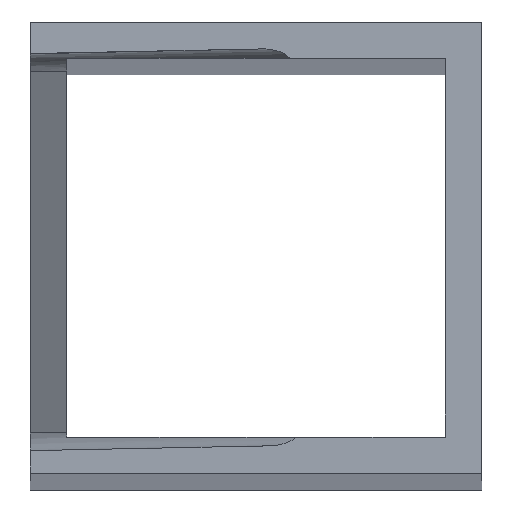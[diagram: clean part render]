
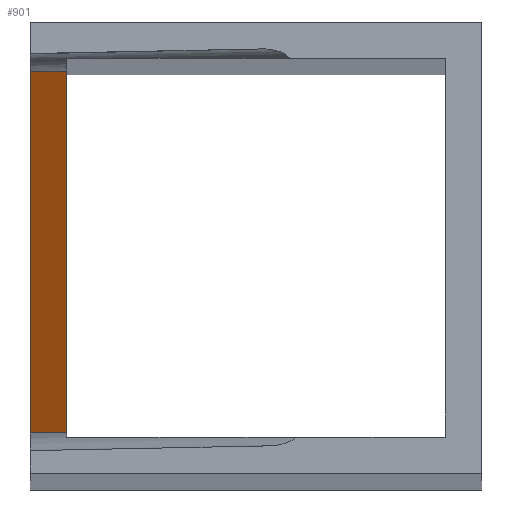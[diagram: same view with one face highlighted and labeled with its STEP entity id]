
A CAD part, top view. The second image highlights one B-rep face of the part: STEP entity #901.
In plain terms, the highlighted planar face has unit normal (-0.573, -0.011, 0.819).
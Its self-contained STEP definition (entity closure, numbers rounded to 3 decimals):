
#44 = PLANE('',#45);
#45 = AXIS2_PLACEMENT_3D('',#46,#47,#48);
#46 = CARTESIAN_POINT('',(-25.,25.,0.));
#47 = DIRECTION('',(1.,0.,-0.));
#48 = DIRECTION('',(0.,-1.,0.));
#242 = VERTEX_POINT('',#243);
#243 = CARTESIAN_POINT('',(-25.,19.504,1049.543));
#258 = CYLINDRICAL_SURFACE('',#259,2.);
#259 = AXIS2_PLACEMENT_3D('',#260,#261,#262);
#260 = CARTESIAN_POINT('',(-2738.935,-34.775,
    -847.77));
#261 = DIRECTION('',(0.819,0.016,0.573));
#262 = DIRECTION('',(0.02,-1.,
    0.));
#275 = EDGE_CURVE('',#242,#276,#278,.T.);
#276 = VERTEX_POINT('',#277);
#277 = CARTESIAN_POINT('',(-25.,-20.504,1048.983));
#278 = SURFACE_CURVE('',#279,(#283,#289),.PCURVE_S1.);
#279 = LINE('',#280,#281);
#280 = CARTESIAN_POINT('',(-25.,-45.49,1048.633));
#281 = VECTOR('',#282,1.);
#282 = DIRECTION('',(0.,-1.,-0.014));
#283 = PCURVE('',#44,#284);
#284 = DEFINITIONAL_REPRESENTATION('',(#285),#288);
#285 = B_SPLINE_CURVE_WITH_KNOTS('',1,(#286,#287),.UNSPECIFIED.,.F.,.F.,
  (2,2),(-65.001,-24.989),.PIECEWISE_BEZIER_KNOTS.);
#286 = CARTESIAN_POINT('',(5.496,-1049.543));
#287 = CARTESIAN_POINT('',(45.504,-1048.983));
#288 = ( GEOMETRIC_REPRESENTATION_CONTEXT(2) 
PARAMETRIC_REPRESENTATION_CONTEXT() REPRESENTATION_CONTEXT('2D SPACE',''
  ) );
#289 = PCURVE('',#290,#295);
#290 = PLANE('',#291);
#291 = AXIS2_PLACEMENT_3D('',#292,#293,#294);
#292 = CARTESIAN_POINT('',(-2736.988,-74.744,
    -849.409));
#293 = DIRECTION('',(-0.573,-0.011,0.819)
  );
#294 = DIRECTION('',(-0.02,1.,0.)
  );
#295 = DEFINITIONAL_REPRESENTATION('',(#296),#299);
#296 = B_SPLINE_CURVE_WITH_KNOTS('',1,(#297,#298),.UNSPECIFIED.,.F.,.F.,
  (2,2),(-65.001,-24.989),.PIECEWISE_BEZIER_KNOTS.);
#297 = CARTESIAN_POINT('',(40.,-3311.824));
#298 = CARTESIAN_POINT('',(0.,-3310.848));
#299 = ( GEOMETRIC_REPRESENTATION_CONTEXT(2) 
PARAMETRIC_REPRESENTATION_CONTEXT() REPRESENTATION_CONTEXT('2D SPACE',''
  ) );
#318 = CYLINDRICAL_SURFACE('',#319,2.);
#319 = AXIS2_PLACEMENT_3D('',#320,#321,#322);
#320 = CARTESIAN_POINT('',(-2738.135,-74.767,
    -847.77));
#321 = DIRECTION('',(0.819,0.016,0.573));
#322 = DIRECTION('',(-0.02,1.,
    0.));
#583 = PLANE('',#584);
#584 = AXIS2_PLACEMENT_3D('',#585,#586,#587);
#585 = CARTESIAN_POINT('',(-21.,21.,0.));
#586 = DIRECTION('',(1.,0.,-0.));
#587 = DIRECTION('',(0.,-1.,0.));
#821 = EDGE_CURVE('',#276,#822,#824,.T.);
#822 = VERTEX_POINT('',#823);
#823 = CARTESIAN_POINT('',(-21.,-20.424,1051.783));
#824 = SURFACE_CURVE('',#825,(#829,#836),.PCURVE_S1.);
#825 = LINE('',#826,#827);
#826 = CARTESIAN_POINT('',(-2736.988,-74.744,
    -849.409));
#827 = VECTOR('',#828,1.);
#828 = DIRECTION('',(0.819,0.016,0.573));
#829 = PCURVE('',#318,#830);
#830 = DEFINITIONAL_REPRESENTATION('',(#831),#835);
#831 = LINE('',#832,#833);
#832 = CARTESIAN_POINT('',(-1.571,0.));
#833 = VECTOR('',#834,1.);
#834 = DIRECTION('',(-0.,1.));
#835 = ( GEOMETRIC_REPRESENTATION_CONTEXT(2) 
PARAMETRIC_REPRESENTATION_CONTEXT() REPRESENTATION_CONTEXT('2D SPACE',''
  ) );
#836 = PCURVE('',#290,#837);
#837 = DEFINITIONAL_REPRESENTATION('',(#838),#842);
#838 = LINE('',#839,#840);
#839 = CARTESIAN_POINT('',(0.,-0.));
#840 = VECTOR('',#841,1.);
#841 = DIRECTION('',(0.,-1.));
#842 = ( GEOMETRIC_REPRESENTATION_CONTEXT(2) 
PARAMETRIC_REPRESENTATION_CONTEXT() REPRESENTATION_CONTEXT('2D SPACE',''
  ) );
#901 = ADVANCED_FACE('',(#902),#290,.T.);
#902 = FACE_BOUND('',#903,.T.);
#903 = EDGE_LOOP('',(#904,#905,#906,#927));
#904 = ORIENTED_EDGE('',*,*,#275,.T.);
#905 = ORIENTED_EDGE('',*,*,#821,.T.);
#906 = ORIENTED_EDGE('',*,*,#907,.F.);
#907 = EDGE_CURVE('',#908,#822,#910,.T.);
#908 = VERTEX_POINT('',#909);
#909 = CARTESIAN_POINT('',(-21.,19.584,1052.343));
#910 = SURFACE_CURVE('',#911,(#915,#921),.PCURVE_S1.);
#911 = LINE('',#912,#913);
#912 = CARTESIAN_POINT('',(-21.,-47.529,1051.403));
#913 = VECTOR('',#914,1.);
#914 = DIRECTION('',(0.,-1.,-0.014));
#915 = PCURVE('',#290,#916);
#916 = DEFINITIONAL_REPRESENTATION('',(#917),#920);
#917 = B_SPLINE_CURVE_WITH_KNOTS('',1,(#918,#919),.UNSPECIFIED.,.F.,.F.,
  (2,2),(-67.12,-27.108),.PIECEWISE_BEZIER_KNOTS.);
#918 = CARTESIAN_POINT('',(40.,-3316.707));
#919 = CARTESIAN_POINT('',(0.,-3315.731));
#920 = ( GEOMETRIC_REPRESENTATION_CONTEXT(2) 
PARAMETRIC_REPRESENTATION_CONTEXT() REPRESENTATION_CONTEXT('2D SPACE',''
  ) );
#921 = PCURVE('',#583,#922);
#922 = DEFINITIONAL_REPRESENTATION('',(#923),#926);
#923 = B_SPLINE_CURVE_WITH_KNOTS('',1,(#924,#925),.UNSPECIFIED.,.F.,.F.,
  (2,2),(-67.12,-27.108),.PIECEWISE_BEZIER_KNOTS.);
#924 = CARTESIAN_POINT('',(1.416,-1052.343));
#925 = CARTESIAN_POINT('',(41.424,-1051.783));
#926 = ( GEOMETRIC_REPRESENTATION_CONTEXT(2) 
PARAMETRIC_REPRESENTATION_CONTEXT() REPRESENTATION_CONTEXT('2D SPACE',''
  ) );
#927 = ORIENTED_EDGE('',*,*,#928,.F.);
#928 = EDGE_CURVE('',#242,#908,#929,.T.);
#929 = SURFACE_CURVE('',#930,(#934,#941),.PCURVE_S1.);
#930 = LINE('',#931,#932);
#931 = CARTESIAN_POINT('',(-2737.788,-34.752,
    -849.409));
#932 = VECTOR('',#933,1.);
#933 = DIRECTION('',(0.819,0.016,0.573));
#934 = PCURVE('',#290,#935);
#935 = DEFINITIONAL_REPRESENTATION('',(#936),#940);
#936 = LINE('',#937,#938);
#937 = CARTESIAN_POINT('',(40.,0.));
#938 = VECTOR('',#939,1.);
#939 = DIRECTION('',(0.,-1.));
#940 = ( GEOMETRIC_REPRESENTATION_CONTEXT(2) 
PARAMETRIC_REPRESENTATION_CONTEXT() REPRESENTATION_CONTEXT('2D SPACE',''
  ) );
#941 = PCURVE('',#258,#942);
#942 = DEFINITIONAL_REPRESENTATION('',(#943),#947);
#943 = LINE('',#944,#945);
#944 = CARTESIAN_POINT('',(1.571,0.));
#945 = VECTOR('',#946,1.);
#946 = DIRECTION('',(0.,1.));
#947 = ( GEOMETRIC_REPRESENTATION_CONTEXT(2) 
PARAMETRIC_REPRESENTATION_CONTEXT() REPRESENTATION_CONTEXT('2D SPACE',''
  ) );
